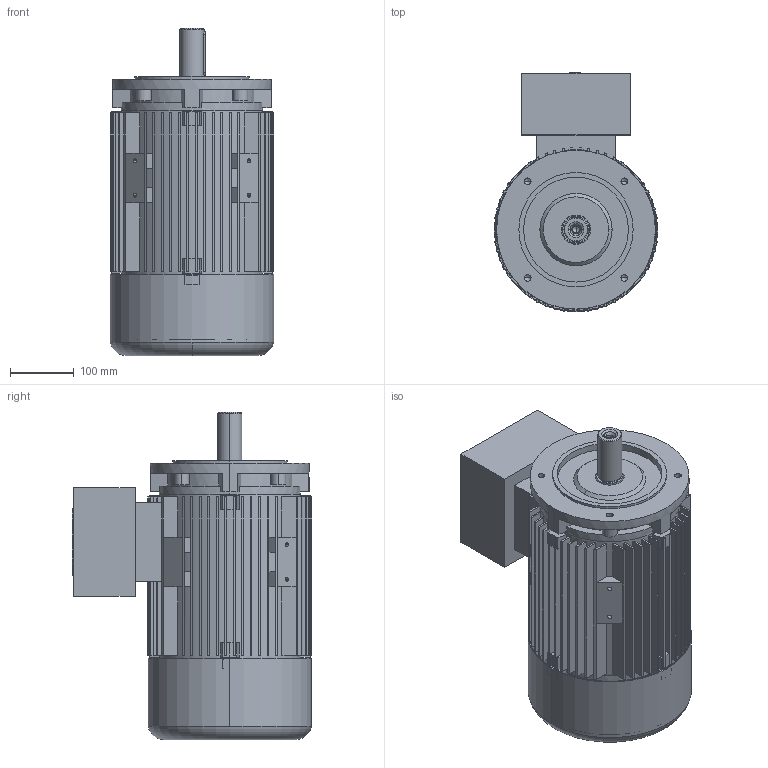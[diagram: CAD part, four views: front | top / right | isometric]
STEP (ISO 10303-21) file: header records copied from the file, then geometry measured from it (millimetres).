
FILE_DESCRIPTION (( 'STEP AP214' ), '1' );
FILE_NAME ('20.17503-C 7AT 132S&M B14_small Exde STANDK.STEP', '2018-05-10T13:16:16', ( '' ), ( '' ), 'SwSTEP 2.0', 'SolidWorks 2017', '' );
FILE_SCHEMA (( 'AUTOMOTIVE_DESIGN' ));
Length unit declared in the file: millimetre
Products named in the file (1): 20.17503-C 7AT 132S&M B14_small Exde STANDK
Bounding box: 257.79 x 376.89 x 515 mm (x, y, z)
Volume: 8439745.9 mm3; surface area: 1600799.2 mm2
Topology: 6 solids, 6 shells, 677 faces, 1833 edges, 1205 vertices
Faces by surface type: plane 458, cylinder 172, cone 34, bspline 9, torus 4
Entity records: 22441 total; most frequent: CARTESIAN_POINT 3907, DIRECTION 3719, ORIENTED_EDGE 3630, EDGE_CURVE 1815, AXIS2_PLACEMENT_3D 1265, VERTEX_POINT 1205, LINE 1189, VECTOR 1189
